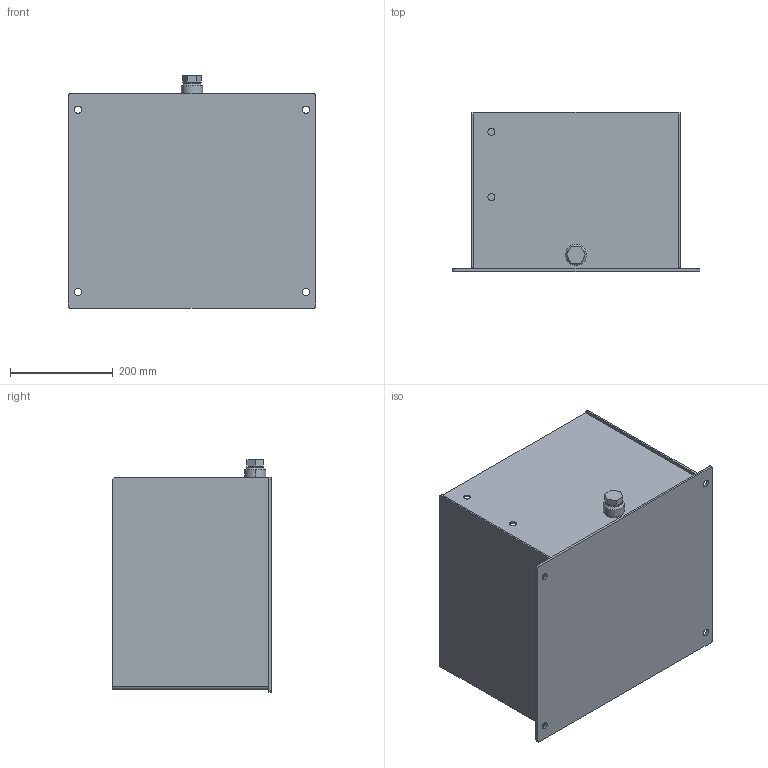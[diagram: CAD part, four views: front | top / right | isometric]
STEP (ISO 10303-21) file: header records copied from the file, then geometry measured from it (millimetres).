
FILE_DESCRIPTION (( 'STEP AP214' ), '1' );
FILE_NAME ('TV-147.STEP', '2019-05-30T18:00:08', ( '' ), ( '' ), 'SwSTEP 2.0', 'SolidWorks 2013', '' );
FILE_SCHEMA (( 'AUTOMOTIVE_DESIGN' ));
Length unit declared in the file: inch
Products named in the file (7): #12 SAE PLUG; #12 SAE DRAIN; TV-GST; TV-147BDY; TV-147FR; TV-147BTM; TV-147
Assembly tree (9 placements, depth 2):
  TV-147
    TV-147BTM
    TV-147FR
    TV-147BDY
    TV-GST  x4
    #12 SAE DRAIN
    #12 SAE PLUG
Bounding box: 482.6 x 309.56 x 454.02 mm (x, y, z)
Volume: 2714514.4 mm3; surface area: 1440780.3 mm2
Topology: 9 solids, 9 shells, 115 faces, 262 edges, 168 vertices
Faces by surface type: plane 71, cylinder 38, cone 6
Entity records: 2990 total; most frequent: DIRECTION 486, CARTESIAN_POINT 443, ORIENTED_EDGE 416, EDGE_CURVE 208, AXIS2_PLACEMENT_3D 175, LINE 136, VECTOR 136, VERTEX_POINT 132
